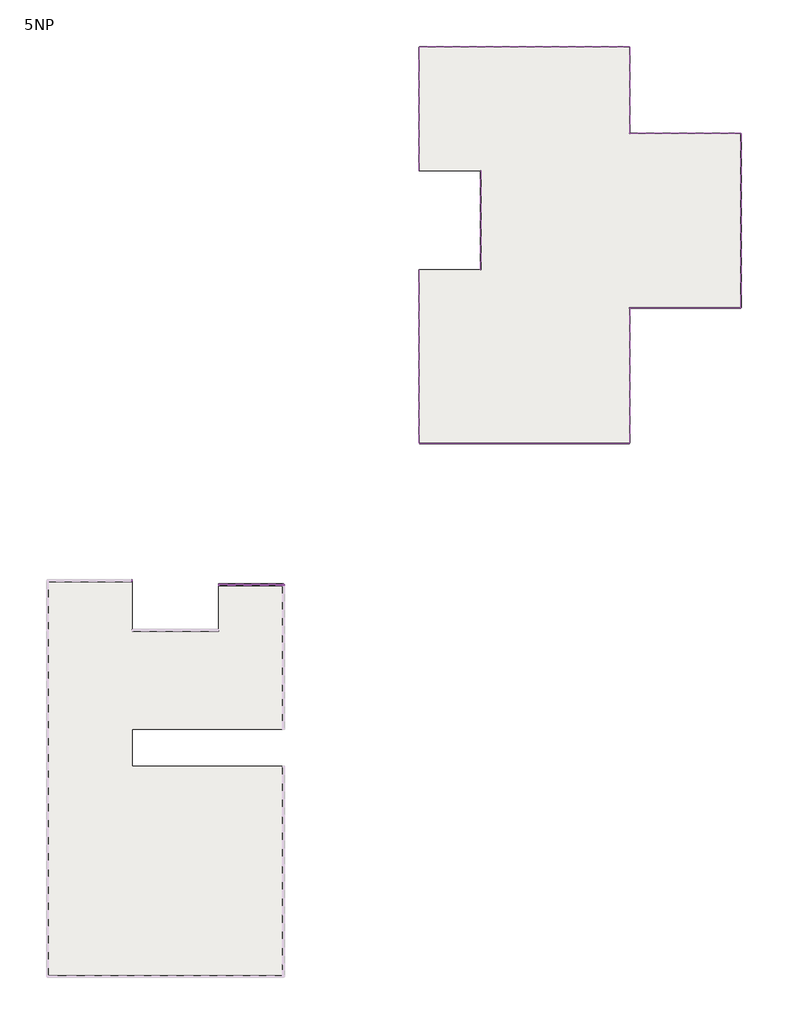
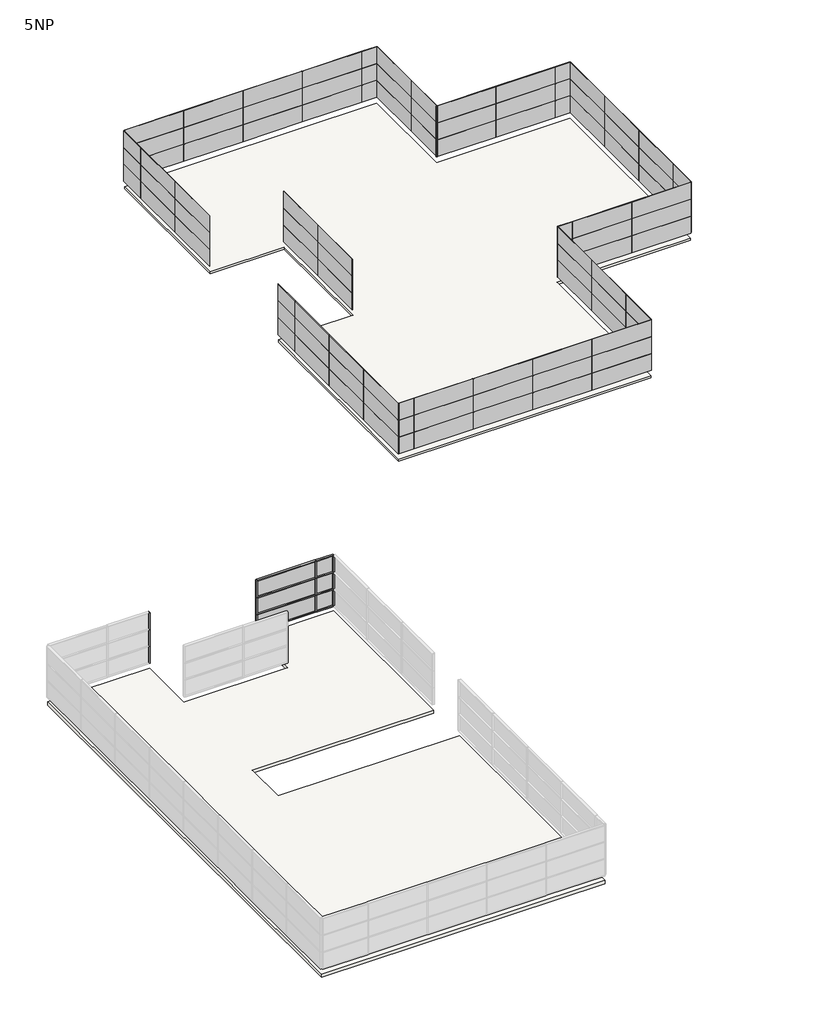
# One storey, part 3 of 3: 108 plates, 23 members, 2 slabs.
"""IFC4 building model written with IfcOpenShell, lengths in millimetres."""

from ifc_helpers import new_model, si_unit, frame, origin, place, context, project, spatial, polyline, outline, extrude, transform, mapped, element, save
from components import rectangular_mullion_50_x_150mm_d99dc9be, rectangular_mullion_50_x_150mm_6588f46c, rectangular_mullion_50_x_150mm_c2546fd4, rectangular_mullion_50_x_150mm_2fe63767, system_panel_glazed_8e9402eb, system_panel_glazed_39d17f19, system_panel_glazed_d6eabcf1, system_panel_glazed_926b6355, system_panel_glazed_d9fb9d0a, system_panel_glazed_4df6a082, system_panel_glazed_76089698, system_panel_glazed_7578c6fa

model = new_model("IFC4")

# Units and contexts
model_context = context("Model", 3, world=origin())
ifc_project = project(units=[si_unit("LENGTHUNIT", "METRE", prefix="MILLI")], contexts=[model_context])

# Site, building, storey
site = spatial("IfcSite", under=ifc_project)
building = spatial("IfcBuilding", under=site)
storey = spatial("IfcBuildingStorey", under=building, Name="5NP", Elevation=20000.0)

# Members
placement = place(None, origin())
rectangular_mullion_50_x_150mm_shape = rectangular_mullion_50_x_150mm_d99dc9be(model_context)
element("IfcMember", 1, ObjectType="Rectangular Mullion : 50 x 150mm", at=placement, inside=storey, context=model_context, shape_type="MappedRepresentation", body=[
    mapped(rectangular_mullion_50_x_150mm_shape, transform((12278.419219, 8039.3555415, 21600.0), x_axis=(1.0, 0.0, 0.0), y_axis=(0.0, 1.0, 0.0), z_axis=(0.0, 0.0, 1.0))),
])
element("IfcMember", 2, ObjectType="Rectangular Mullion : 50 x 150mm", at=placement, inside=storey, context=model_context, shape_type="MappedRepresentation", body=[
    mapped(rectangular_mullion_50_x_150mm_shape, transform((12278.419219, 8039.3555415, 22800.0), x_axis=(1.0, 0.0, 0.0), y_axis=(0.0, 1.0, 0.0), z_axis=(0.0, 0.0, 1.0))),
])
element("IfcMember", 3, ObjectType="Rectangular Mullion : 50 x 150mm", at=placement, inside=storey, context=model_context, shape_type="MappedRepresentation", body=[
    mapped(rectangular_mullion_50_x_150mm_shape, transform((12278.419219, 8039.3555415, 24000.0), x_axis=(1.0, 0.0, 0.0), y_axis=(0.0, 1.0, 0.0), z_axis=(0.0, 0.0, 1.0))),
])
rectangular_mullion_50_x_150mm_2_shape = rectangular_mullion_50_x_150mm_6588f46c(model_context)
element("IfcMember", 4, ObjectType="Rectangular Mullion : 50 x 150mm", at=placement, inside=storey, context=model_context, shape_type="MappedRepresentation", body=[
    mapped(rectangular_mullion_50_x_150mm_2_shape, transform((1278.419219, 8375.9839566, 21600.0), x_axis=(1.0, 0.0, 0.0), y_axis=(0.0, 1.0, 0.0), z_axis=(0.0, 0.0, 1.0))),
])
element("IfcMember", 5, ObjectType="Rectangular Mullion : 50 x 150mm", at=placement, inside=storey, context=model_context, shape_type="MappedRepresentation", body=[
    mapped(rectangular_mullion_50_x_150mm_2_shape, transform((1278.419219, 8375.9839566, 22800.0), x_axis=(1.0, 0.0, 0.0), y_axis=(0.0, 1.0, 0.0), z_axis=(0.0, 0.0, 1.0))),
])
element("IfcMember", 6, ObjectType="Rectangular Mullion : 50 x 150mm", at=placement, inside=storey, context=model_context, shape_type="MappedRepresentation", body=[
    mapped(rectangular_mullion_50_x_150mm_2_shape, transform((1278.419219, 8375.9839566, 24000.0), x_axis=(1.0, 0.0, 0.0), y_axis=(0.0, 1.0, 0.0), z_axis=(0.0, 0.0, 1.0))),
])
element("IfcMember", 7, ObjectType="Rectangular Mullion : 50 x 150mm", at=placement, inside=storey, context=model_context, shape_type="MappedRepresentation", body=[
    mapped(rectangular_mullion_50_x_150mm_2_shape, transform((13503.2660975, 8039.3555415, 21600.0), x_axis=(1.0, 0.0, 0.0), y_axis=(0.0, 1.0, 0.0), z_axis=(0.0, 0.0, 1.0))),
])
element("IfcMember", 8, ObjectType="Rectangular Mullion : 50 x 150mm", at=placement, inside=storey, context=model_context, shape_type="MappedRepresentation", body=[
    mapped(rectangular_mullion_50_x_150mm_2_shape, transform((13503.2660975, 8039.3555415, 22800.0), x_axis=(1.0, 0.0, 0.0), y_axis=(0.0, 1.0, 0.0), z_axis=(0.0, 0.0, 1.0))),
])
element("IfcMember", 9, ObjectType="Rectangular Mullion : 50 x 150mm", at=placement, inside=storey, context=model_context, shape_type="MappedRepresentation", body=[
    mapped(rectangular_mullion_50_x_150mm_2_shape, transform((13503.2660975, 8039.3555415, 24000.0), x_axis=(1.0, 0.0, 0.0), y_axis=(0.0, 1.0, 0.0), z_axis=(0.0, 0.0, 1.0))),
])
rectangular_mullion_50_x_150mm_3_shape = rectangular_mullion_50_x_150mm_c2546fd4(model_context)
element("IfcMember", 10, ObjectType="Rectangular Mullion : 50 x 150mm", at=placement, inside=storey, context=model_context, shape_type="MappedRepresentation", body=[
    mapped(rectangular_mullion_50_x_150mm_3_shape, transform((8328.419219, 8039.3555415, 24000.0), x_axis=(0.0, 0.0, 1.0), y_axis=(0.0, 1.0, 0.0), z_axis=(-1.0, 0.0, 0.0))),
])
element("IfcMember", 11, ObjectType="Rectangular Mullion : 50 x 150mm", at=placement, inside=storey, context=model_context, shape_type="MappedRepresentation", body=[
    mapped(rectangular_mullion_50_x_150mm_3_shape, transform((8328.419219, 8039.3555415, 20400.0), x_axis=(0.0, 0.0, 1.0), y_axis=(0.0, 1.0, 0.0), z_axis=(-1.0, 0.0, 0.0))),
])
element("IfcMember", 12, ObjectType="Rectangular Mullion : 50 x 150mm", at=placement, inside=storey, context=model_context, shape_type="MappedRepresentation", body=[
    mapped(rectangular_mullion_50_x_150mm_3_shape, transform((8328.419219, 8039.3555415, 21600.0), x_axis=(0.0, 0.0, 1.0), y_axis=(0.0, 1.0, 0.0), z_axis=(-1.0, 0.0, 0.0))),
])
element("IfcMember", 13, ObjectType="Rectangular Mullion : 50 x 150mm", at=placement, inside=storey, context=model_context, shape_type="MappedRepresentation", body=[
    mapped(rectangular_mullion_50_x_150mm_3_shape, transform((8328.419219, 8039.3555415, 22800.0), x_axis=(0.0, 0.0, 1.0), y_axis=(0.0, 1.0, 0.0), z_axis=(-1.0, 0.0, 0.0))),
])
element("IfcMember", 14, ObjectType="Rectangular Mullion : 50 x 150mm", at=placement, inside=storey, context=model_context, shape_type="MappedRepresentation", body=[
    mapped(rectangular_mullion_50_x_150mm_2_shape, transform((13503.2660975, 8039.3555415, 22800.0), x_axis=(0.0, 1.0, 0.0), y_axis=(1.0, 0.0, 0.0), z_axis=(0.0, 0.0, -1.0))),
])
element("IfcMember", 15, ObjectType="Rectangular Mullion : 50 x 150mm", at=placement, inside=storey, context=model_context, shape_type="MappedRepresentation", body=[
    mapped(rectangular_mullion_50_x_150mm_2_shape, transform((13503.2660975, 8039.3555415, 21600.0), x_axis=(0.0, 1.0, 0.0), y_axis=(1.0, 0.0, 0.0), z_axis=(0.0, 0.0, -1.0))),
])
element("IfcMember", 16, ObjectType="Rectangular Mullion : 50 x 150mm", at=placement, inside=storey, context=model_context, shape_type="MappedRepresentation", body=[
    mapped(rectangular_mullion_50_x_150mm_2_shape, transform((13503.2660975, 8039.3555415, 20400.0), x_axis=(0.0, 1.0, 0.0), y_axis=(1.0, 0.0, 0.0), z_axis=(0.0, 0.0, -1.0))),
])
element("IfcMember", 17, ObjectType="Rectangular Mullion : 50 x 150mm", at=placement, inside=storey, context=model_context, shape_type="MappedRepresentation", body=[
    mapped(rectangular_mullion_50_x_150mm_2_shape, transform((8278.419219, 8039.3555415, 20400.0), x_axis=(-1.0, 0.0, 0.0), y_axis=(0.0, 1.0, 0.0), z_axis=(0.0, 0.0, -1.0))),
])
element("IfcMember", 18, ObjectType="Rectangular Mullion : 50 x 150mm", at=placement, inside=storey, context=model_context, shape_type="MappedRepresentation", body=[
    mapped(rectangular_mullion_50_x_150mm_2_shape, transform((8278.419219, 8039.3555415, 21600.0), x_axis=(-1.0, 0.0, 0.0), y_axis=(0.0, 1.0, 0.0), z_axis=(0.0, 0.0, -1.0))),
])
element("IfcMember", 19, ObjectType="Rectangular Mullion : 50 x 150mm", at=placement, inside=storey, context=model_context, shape_type="MappedRepresentation", body=[
    mapped(rectangular_mullion_50_x_150mm_2_shape, transform((8278.419219, 8039.3555415, 22800.0), x_axis=(-1.0, 0.0, 0.0), y_axis=(0.0, 1.0, 0.0), z_axis=(0.0, 0.0, -1.0))),
])
rectangular_mullion_50_x_150mm_4_shape = rectangular_mullion_50_x_150mm_2fe63767(model_context)
element("IfcMember", 20, ObjectType="Rectangular Mullion : 50 x 150mm", at=placement, inside=storey, context=model_context, shape_type="MappedRepresentation", body=[
    mapped(rectangular_mullion_50_x_150mm_4_shape, transform((12303.419219, 8039.3555415, 22800.0), x_axis=(0.0, 0.0, 1.0), y_axis=(0.0, 1.0, 0.0), z_axis=(-1.0, 0.0, 0.0))),
])
element("IfcMember", 21, ObjectType="Rectangular Mullion : 50 x 150mm", at=placement, inside=storey, context=model_context, shape_type="MappedRepresentation", body=[
    mapped(rectangular_mullion_50_x_150mm_4_shape, transform((12303.419219, 8039.3555415, 24000.0), x_axis=(0.0, 0.0, 1.0), y_axis=(0.0, 1.0, 0.0), z_axis=(-1.0, 0.0, 0.0))),
])
element("IfcMember", 22, ObjectType="Rectangular Mullion : 50 x 150mm", at=placement, inside=storey, context=model_context, shape_type="MappedRepresentation", body=[
    mapped(rectangular_mullion_50_x_150mm_4_shape, transform((12303.419219, 8039.3555415, 20400.0), x_axis=(0.0, 0.0, 1.0), y_axis=(0.0, 1.0, 0.0), z_axis=(-1.0, 0.0, 0.0))),
])
element("IfcMember", 23, ObjectType="Rectangular Mullion : 50 x 150mm", at=placement, inside=storey, context=model_context, shape_type="MappedRepresentation", body=[
    mapped(rectangular_mullion_50_x_150mm_4_shape, transform((12303.419219, 8039.3555415, 21600.0), x_axis=(0.0, 0.0, 1.0), y_axis=(0.0, 1.0, 0.0), z_axis=(-1.0, 0.0, 0.0))),
])

# Plates
system_panel_glazed_shape = system_panel_glazed_8e9402eb(model_context)
element("IfcPlate", 24, ObjectType="System Panel : Glazed", at=placement, inside=storey, context=model_context, shape_type="MappedRepresentation", body=[
    mapped(system_panel_glazed_shape, transform((10290.919219, 8039.3555415, 20425.0), x_axis=(1.0, 0.0, 0.0), y_axis=(0.0, 1.0, 0.0), z_axis=(0.0, 0.0, 1.0))),
])
element("IfcPlate", 25, ObjectType="System Panel : Glazed", at=placement, inside=storey, context=model_context, shape_type="MappedRepresentation", body=[
    mapped(system_panel_glazed_shape, transform((10290.919219, 8039.3555415, 21625.0), x_axis=(1.0, 0.0, 0.0), y_axis=(0.0, 1.0, 0.0), z_axis=(0.0, 0.0, 1.0))),
])
element("IfcPlate", 26, ObjectType="System Panel : Glazed", at=placement, inside=storey, context=model_context, shape_type="MappedRepresentation", body=[
    mapped(system_panel_glazed_shape, transform((10290.919219, 8039.3555415, 22825.0), x_axis=(1.0, 0.0, 0.0), y_axis=(0.0, 1.0, 0.0), z_axis=(0.0, 0.0, 1.0))),
])
system_panel_glazed_2_shape = system_panel_glazed_39d17f19(model_context)
element("IfcPlate", 27, ObjectType="System Panel : Glazed", at=placement, inside=storey, context=model_context, shape_type="MappedRepresentation", body=[
    mapped(system_panel_glazed_2_shape, transform((12878.3426582, 8039.3555415, 20425.0), x_axis=(1.0, 0.0, 0.0), y_axis=(0.0, 1.0, 0.0), z_axis=(0.0, 0.0, 1.0))),
])
element("IfcPlate", 28, ObjectType="System Panel : Glazed", at=placement, inside=storey, context=model_context, shape_type="MappedRepresentation", body=[
    mapped(system_panel_glazed_2_shape, transform((12878.3426582, 8039.3555415, 21625.0), x_axis=(1.0, 0.0, 0.0), y_axis=(0.0, 1.0, 0.0), z_axis=(0.0, 0.0, 1.0))),
])
element("IfcPlate", 29, ObjectType="System Panel : Glazed", at=placement, inside=storey, context=model_context, shape_type="MappedRepresentation", body=[
    mapped(system_panel_glazed_2_shape, transform((12878.3426582, 8039.3555415, 22825.0), x_axis=(1.0, 0.0, 0.0), y_axis=(0.0, 1.0, 0.0), z_axis=(0.0, 0.0, 1.0))),
])
system_panel_glazed_3_shape = system_panel_glazed_d6eabcf1(model_context)
element("IfcPlate", 30, ObjectType="System Panel : Glazed", at=placement, inside=storey, context=model_context, shape_type="MappedRepresentation", body=[
    mapped(system_panel_glazed_3_shape, transform((39503.2660975, 19519.7749227, 20400.0), x_axis=(-1.0, 0.0, 0.0), y_axis=(0.0, -1.0, 0.0), z_axis=(0.0, 0.0, 1.0))),
])
element("IfcPlate", 31, ObjectType="System Panel : Glazed", at=placement, inside=storey, context=model_context, shape_type="MappedRepresentation", body=[
    mapped(system_panel_glazed_3_shape, transform((35503.2660975, 19519.7749227, 20400.0), x_axis=(-1.0, 0.0, 0.0), y_axis=(0.0, -1.0, 0.0), z_axis=(0.0, 0.0, 1.0))),
])
element("IfcPlate", 32, ObjectType="System Panel : Glazed", at=placement, inside=storey, context=model_context, shape_type="MappedRepresentation", body=[
    mapped(system_panel_glazed_3_shape, transform((31503.2660975, 19519.7749227, 20400.0), x_axis=(-1.0, 0.0, 0.0), y_axis=(0.0, -1.0, 0.0), z_axis=(0.0, 0.0, 1.0))),
])
element("IfcPlate", 33, ObjectType="System Panel : Glazed", at=placement, inside=storey, context=model_context, shape_type="MappedRepresentation", body=[
    mapped(system_panel_glazed_3_shape, transform((27503.2660975, 19519.7749227, 20400.0), x_axis=(-1.0, 0.0, 0.0), y_axis=(0.0, -1.0, 0.0), z_axis=(0.0, 0.0, 1.0))),
])
element("IfcPlate", 34, ObjectType="System Panel : Glazed", at=placement, inside=storey, context=model_context, shape_type="MappedRepresentation", body=[
    mapped(system_panel_glazed_3_shape, transform((39503.2660975, 19519.7749227, 21600.0), x_axis=(-1.0, 0.0, 0.0), y_axis=(0.0, -1.0, 0.0), z_axis=(0.0, 0.0, 1.0))),
])
element("IfcPlate", 35, ObjectType="System Panel : Glazed", at=placement, inside=storey, context=model_context, shape_type="MappedRepresentation", body=[
    mapped(system_panel_glazed_3_shape, transform((35503.2660975, 19519.7749227, 21600.0), x_axis=(-1.0, 0.0, 0.0), y_axis=(0.0, -1.0, 0.0), z_axis=(0.0, 0.0, 1.0))),
])
element("IfcPlate", 36, ObjectType="System Panel : Glazed", at=placement, inside=storey, context=model_context, shape_type="MappedRepresentation", body=[
    mapped(system_panel_glazed_3_shape, transform((31503.2660975, 19519.7749227, 21600.0), x_axis=(-1.0, 0.0, 0.0), y_axis=(0.0, -1.0, 0.0), z_axis=(0.0, 0.0, 1.0))),
])
element("IfcPlate", 37, ObjectType="System Panel : Glazed", at=placement, inside=storey, context=model_context, shape_type="MappedRepresentation", body=[
    mapped(system_panel_glazed_3_shape, transform((27503.2660975, 19519.7749227, 21600.0), x_axis=(-1.0, 0.0, 0.0), y_axis=(0.0, -1.0, 0.0), z_axis=(0.0, 0.0, 1.0))),
])
element("IfcPlate", 38, ObjectType="System Panel : Glazed", at=placement, inside=storey, context=model_context, shape_type="MappedRepresentation", body=[
    mapped(system_panel_glazed_3_shape, transform((39503.2660975, 19519.7749227, 22800.0), x_axis=(-1.0, 0.0, 0.0), y_axis=(0.0, -1.0, 0.0), z_axis=(0.0, 0.0, 1.0))),
])
element("IfcPlate", 39, ObjectType="System Panel : Glazed", at=placement, inside=storey, context=model_context, shape_type="MappedRepresentation", body=[
    mapped(system_panel_glazed_3_shape, transform((35503.2660975, 19519.7749227, 22800.0), x_axis=(-1.0, 0.0, 0.0), y_axis=(0.0, -1.0, 0.0), z_axis=(0.0, 0.0, 1.0))),
])
element("IfcPlate", 40, ObjectType="System Panel : Glazed", at=placement, inside=storey, context=model_context, shape_type="MappedRepresentation", body=[
    mapped(system_panel_glazed_3_shape, transform((31503.2660975, 19519.7749227, 22800.0), x_axis=(-1.0, 0.0, 0.0), y_axis=(0.0, -1.0, 0.0), z_axis=(0.0, 0.0, 1.0))),
])
element("IfcPlate", 41, ObjectType="System Panel : Glazed", at=placement, inside=storey, context=model_context, shape_type="MappedRepresentation", body=[
    mapped(system_panel_glazed_3_shape, transform((27503.2660975, 19519.7749227, 22800.0), x_axis=(-1.0, 0.0, 0.0), y_axis=(0.0, -1.0, 0.0), z_axis=(0.0, 0.0, 1.0))),
])
element("IfcPlate", 42, ObjectType="System Panel : Glazed", at=placement, inside=storey, context=model_context, shape_type="MappedRepresentation", body=[
    mapped(system_panel_glazed_3_shape, transform((24503.2660975, 21519.7749227, 20400.0), x_axis=(0.0, 1.0, 0.0), y_axis=(-1.0, 0.0, 0.0), z_axis=(0.0, 0.0, 1.0))),
])
element("IfcPlate", 43, ObjectType="System Panel : Glazed", at=placement, inside=storey, context=model_context, shape_type="MappedRepresentation", body=[
    mapped(system_panel_glazed_3_shape, transform((24503.2660975, 25519.7749227, 20400.0), x_axis=(0.0, 1.0, 0.0), y_axis=(-1.0, 0.0, 0.0), z_axis=(0.0, 0.0, 1.0))),
])
element("IfcPlate", 44, ObjectType="System Panel : Glazed", at=placement, inside=storey, context=model_context, shape_type="MappedRepresentation", body=[
    mapped(system_panel_glazed_3_shape, transform((24503.2660975, 29519.7749227, 20400.0), x_axis=(0.0, 1.0, 0.0), y_axis=(-1.0, 0.0, 0.0), z_axis=(0.0, 0.0, 1.0))),
])
element("IfcPlate", 45, ObjectType="System Panel : Glazed", at=placement, inside=storey, context=model_context, shape_type="MappedRepresentation", body=[
    mapped(system_panel_glazed_3_shape, transform((24503.2660975, 21519.7749227, 21600.0), x_axis=(0.0, 1.0, 0.0), y_axis=(-1.0, 0.0, 0.0), z_axis=(0.0, 0.0, 1.0))),
])
element("IfcPlate", 46, ObjectType="System Panel : Glazed", at=placement, inside=storey, context=model_context, shape_type="MappedRepresentation", body=[
    mapped(system_panel_glazed_3_shape, transform((24503.2660975, 25519.7749227, 21600.0), x_axis=(0.0, 1.0, 0.0), y_axis=(-1.0, 0.0, 0.0), z_axis=(0.0, 0.0, 1.0))),
])
element("IfcPlate", 47, ObjectType="System Panel : Glazed", at=placement, inside=storey, context=model_context, shape_type="MappedRepresentation", body=[
    mapped(system_panel_glazed_3_shape, transform((24503.2660975, 29519.7749227, 21600.0), x_axis=(0.0, 1.0, 0.0), y_axis=(-1.0, 0.0, 0.0), z_axis=(0.0, 0.0, 1.0))),
])
element("IfcPlate", 48, ObjectType="System Panel : Glazed", at=placement, inside=storey, context=model_context, shape_type="MappedRepresentation", body=[
    mapped(system_panel_glazed_3_shape, transform((24503.2660975, 21519.7749227, 22800.0), x_axis=(0.0, 1.0, 0.0), y_axis=(-1.0, 0.0, 0.0), z_axis=(0.0, 0.0, 1.0))),
])
element("IfcPlate", 49, ObjectType="System Panel : Glazed", at=placement, inside=storey, context=model_context, shape_type="MappedRepresentation", body=[
    mapped(system_panel_glazed_3_shape, transform((24503.2660975, 25519.7749227, 22800.0), x_axis=(0.0, 1.0, 0.0), y_axis=(-1.0, 0.0, 0.0), z_axis=(0.0, 0.0, 1.0))),
])
element("IfcPlate", 50, ObjectType="System Panel : Glazed", at=placement, inside=storey, context=model_context, shape_type="MappedRepresentation", body=[
    mapped(system_panel_glazed_3_shape, transform((24503.2660975, 29519.7749227, 22800.0), x_axis=(0.0, 1.0, 0.0), y_axis=(-1.0, 0.0, 0.0), z_axis=(0.0, 0.0, 1.0))),
])
element("IfcPlate", 51, ObjectType="System Panel : Glazed", at=placement, inside=storey, context=model_context, shape_type="MappedRepresentation", body=[
    mapped(system_panel_glazed_3_shape, transform((29503.2660975, 35519.7749227, 20400.0), x_axis=(0.0, 1.0, 0.0), y_axis=(-1.0, 0.0, 0.0), z_axis=(0.0, 0.0, 1.0))),
])
element("IfcPlate", 52, ObjectType="System Panel : Glazed", at=placement, inside=storey, context=model_context, shape_type="MappedRepresentation", body=[
    mapped(system_panel_glazed_3_shape, transform((29503.2660975, 39519.7749227, 20400.0), x_axis=(0.0, 1.0, 0.0), y_axis=(-1.0, 0.0, 0.0), z_axis=(0.0, 0.0, 1.0))),
])
element("IfcPlate", 53, ObjectType="System Panel : Glazed", at=placement, inside=storey, context=model_context, shape_type="MappedRepresentation", body=[
    mapped(system_panel_glazed_3_shape, transform((29503.2660975, 35519.7749227, 21600.0), x_axis=(0.0, 1.0, 0.0), y_axis=(-1.0, 0.0, 0.0), z_axis=(0.0, 0.0, 1.0))),
])
element("IfcPlate", 54, ObjectType="System Panel : Glazed", at=placement, inside=storey, context=model_context, shape_type="MappedRepresentation", body=[
    mapped(system_panel_glazed_3_shape, transform((29503.2660975, 39519.7749227, 21600.0), x_axis=(0.0, 1.0, 0.0), y_axis=(-1.0, 0.0, 0.0), z_axis=(0.0, 0.0, 1.0))),
])
element("IfcPlate", 55, ObjectType="System Panel : Glazed", at=placement, inside=storey, context=model_context, shape_type="MappedRepresentation", body=[
    mapped(system_panel_glazed_3_shape, transform((29503.2660975, 35519.7749227, 22800.0), x_axis=(0.0, 1.0, 0.0), y_axis=(-1.0, 0.0, 0.0), z_axis=(0.0, 0.0, 1.0))),
])
element("IfcPlate", 56, ObjectType="System Panel : Glazed", at=placement, inside=storey, context=model_context, shape_type="MappedRepresentation", body=[
    mapped(system_panel_glazed_3_shape, transform((29503.2660975, 39519.7749227, 22800.0), x_axis=(0.0, 1.0, 0.0), y_axis=(-1.0, 0.0, 0.0), z_axis=(0.0, 0.0, 1.0))),
])
element("IfcPlate", 57, ObjectType="System Panel : Glazed", at=placement, inside=storey, context=model_context, shape_type="MappedRepresentation", body=[
    mapped(system_panel_glazed_3_shape, transform((24503.2660975, 43519.7749227, 20400.0), x_axis=(0.0, 1.0, 0.0), y_axis=(-1.0, 0.0, 0.0), z_axis=(0.0, 0.0, 1.0))),
])
element("IfcPlate", 58, ObjectType="System Panel : Glazed", at=placement, inside=storey, context=model_context, shape_type="MappedRepresentation", body=[
    mapped(system_panel_glazed_3_shape, transform((24503.2660975, 47519.7749227, 20400.0), x_axis=(0.0, 1.0, 0.0), y_axis=(-1.0, 0.0, 0.0), z_axis=(0.0, 0.0, 1.0))),
])
element("IfcPlate", 59, ObjectType="System Panel : Glazed", at=placement, inside=storey, context=model_context, shape_type="MappedRepresentation", body=[
    mapped(system_panel_glazed_3_shape, transform((24503.2660975, 43519.7749227, 21600.0), x_axis=(0.0, 1.0, 0.0), y_axis=(-1.0, 0.0, 0.0), z_axis=(0.0, 0.0, 1.0))),
])
element("IfcPlate", 60, ObjectType="System Panel : Glazed", at=placement, inside=storey, context=model_context, shape_type="MappedRepresentation", body=[
    mapped(system_panel_glazed_3_shape, transform((24503.2660975, 47519.7749227, 21600.0), x_axis=(0.0, 1.0, 0.0), y_axis=(-1.0, 0.0, 0.0), z_axis=(0.0, 0.0, 1.0))),
])
element("IfcPlate", 61, ObjectType="System Panel : Glazed", at=placement, inside=storey, context=model_context, shape_type="MappedRepresentation", body=[
    mapped(system_panel_glazed_3_shape, transform((24503.2660975, 43519.7749227, 22800.0), x_axis=(0.0, 1.0, 0.0), y_axis=(-1.0, 0.0, 0.0), z_axis=(0.0, 0.0, 1.0))),
])
element("IfcPlate", 62, ObjectType="System Panel : Glazed", at=placement, inside=storey, context=model_context, shape_type="MappedRepresentation", body=[
    mapped(system_panel_glazed_3_shape, transform((24503.2660975, 47519.7749227, 22800.0), x_axis=(0.0, 1.0, 0.0), y_axis=(-1.0, 0.0, 0.0), z_axis=(0.0, 0.0, 1.0))),
])
element("IfcPlate", 63, ObjectType="System Panel : Glazed", at=placement, inside=storey, context=model_context, shape_type="MappedRepresentation", body=[
    mapped(system_panel_glazed_3_shape, transform((48503.2660975, 30457.4517739, 20400.0), x_axis=(-1.0, 0.0, 0.0), y_axis=(0.0, -1.0, 0.0), z_axis=(0.0, 0.0, 1.0))),
])
element("IfcPlate", 64, ObjectType="System Panel : Glazed", at=placement, inside=storey, context=model_context, shape_type="MappedRepresentation", body=[
    mapped(system_panel_glazed_3_shape, transform((44503.2660975, 30457.4517739, 20400.0), x_axis=(-1.0, 0.0, 0.0), y_axis=(0.0, -1.0, 0.0), z_axis=(0.0, 0.0, 1.0))),
])
element("IfcPlate", 65, ObjectType="System Panel : Glazed", at=placement, inside=storey, context=model_context, shape_type="MappedRepresentation", body=[
    mapped(system_panel_glazed_3_shape, transform((48503.2660975, 30457.4517739, 21600.0), x_axis=(-1.0, 0.0, 0.0), y_axis=(0.0, -1.0, 0.0), z_axis=(0.0, 0.0, 1.0))),
])
element("IfcPlate", 66, ObjectType="System Panel : Glazed", at=placement, inside=storey, context=model_context, shape_type="MappedRepresentation", body=[
    mapped(system_panel_glazed_3_shape, transform((44503.2660975, 30457.4517739, 21600.0), x_axis=(-1.0, 0.0, 0.0), y_axis=(0.0, -1.0, 0.0), z_axis=(0.0, 0.0, 1.0))),
])
element("IfcPlate", 67, ObjectType="System Panel : Glazed", at=placement, inside=storey, context=model_context, shape_type="MappedRepresentation", body=[
    mapped(system_panel_glazed_3_shape, transform((48503.2660975, 30457.4517739, 22800.0), x_axis=(-1.0, 0.0, 0.0), y_axis=(0.0, -1.0, 0.0), z_axis=(0.0, 0.0, 1.0))),
])
element("IfcPlate", 68, ObjectType="System Panel : Glazed", at=placement, inside=storey, context=model_context, shape_type="MappedRepresentation", body=[
    mapped(system_panel_glazed_3_shape, transform((44503.2660975, 30457.4517739, 22800.0), x_axis=(-1.0, 0.0, 0.0), y_axis=(0.0, -1.0, 0.0), z_axis=(0.0, 0.0, 1.0))),
])
element("IfcPlate", 69, ObjectType="System Panel : Glazed", at=placement, inside=storey, context=model_context, shape_type="MappedRepresentation", body=[
    mapped(system_panel_glazed_3_shape, transform((26503.2660975, 51519.7749227, 20400.0), x_axis=(1.0, 0.0, 0.0), y_axis=(0.0, 1.0, 0.0), z_axis=(0.0, 0.0, 1.0))),
])
element("IfcPlate", 70, ObjectType="System Panel : Glazed", at=placement, inside=storey, context=model_context, shape_type="MappedRepresentation", body=[
    mapped(system_panel_glazed_3_shape, transform((30503.2660975, 51519.7749227, 20400.0), x_axis=(1.0, 0.0, 0.0), y_axis=(0.0, 1.0, 0.0), z_axis=(0.0, 0.0, 1.0))),
])
element("IfcPlate", 71, ObjectType="System Panel : Glazed", at=placement, inside=storey, context=model_context, shape_type="MappedRepresentation", body=[
    mapped(system_panel_glazed_3_shape, transform((34503.2660975, 51519.7749227, 20400.0), x_axis=(1.0, 0.0, 0.0), y_axis=(0.0, 1.0, 0.0), z_axis=(0.0, 0.0, 1.0))),
])
element("IfcPlate", 72, ObjectType="System Panel : Glazed", at=placement, inside=storey, context=model_context, shape_type="MappedRepresentation", body=[
    mapped(system_panel_glazed_3_shape, transform((38503.2660975, 51519.7749227, 20400.0), x_axis=(1.0, 0.0, 0.0), y_axis=(0.0, 1.0, 0.0), z_axis=(0.0, 0.0, 1.0))),
])
element("IfcPlate", 73, ObjectType="System Panel : Glazed", at=placement, inside=storey, context=model_context, shape_type="MappedRepresentation", body=[
    mapped(system_panel_glazed_3_shape, transform((26503.2660975, 51519.7749227, 21600.0), x_axis=(1.0, 0.0, 0.0), y_axis=(0.0, 1.0, 0.0), z_axis=(0.0, 0.0, 1.0))),
])
element("IfcPlate", 74, ObjectType="System Panel : Glazed", at=placement, inside=storey, context=model_context, shape_type="MappedRepresentation", body=[
    mapped(system_panel_glazed_3_shape, transform((30503.2660975, 51519.7749227, 21600.0), x_axis=(1.0, 0.0, 0.0), y_axis=(0.0, 1.0, 0.0), z_axis=(0.0, 0.0, 1.0))),
])
element("IfcPlate", 75, ObjectType="System Panel : Glazed", at=placement, inside=storey, context=model_context, shape_type="MappedRepresentation", body=[
    mapped(system_panel_glazed_3_shape, transform((34503.2660975, 51519.7749227, 21600.0), x_axis=(1.0, 0.0, 0.0), y_axis=(0.0, 1.0, 0.0), z_axis=(0.0, 0.0, 1.0))),
])
element("IfcPlate", 76, ObjectType="System Panel : Glazed", at=placement, inside=storey, context=model_context, shape_type="MappedRepresentation", body=[
    mapped(system_panel_glazed_3_shape, transform((38503.2660975, 51519.7749227, 21600.0), x_axis=(1.0, 0.0, 0.0), y_axis=(0.0, 1.0, 0.0), z_axis=(0.0, 0.0, 1.0))),
])
element("IfcPlate", 77, ObjectType="System Panel : Glazed", at=placement, inside=storey, context=model_context, shape_type="MappedRepresentation", body=[
    mapped(system_panel_glazed_3_shape, transform((26503.2660975, 51519.7749227, 22800.0), x_axis=(1.0, 0.0, 0.0), y_axis=(0.0, 1.0, 0.0), z_axis=(0.0, 0.0, 1.0))),
])
element("IfcPlate", 78, ObjectType="System Panel : Glazed", at=placement, inside=storey, context=model_context, shape_type="MappedRepresentation", body=[
    mapped(system_panel_glazed_3_shape, transform((30503.2660975, 51519.7749227, 22800.0), x_axis=(1.0, 0.0, 0.0), y_axis=(0.0, 1.0, 0.0), z_axis=(0.0, 0.0, 1.0))),
])
element("IfcPlate", 79, ObjectType="System Panel : Glazed", at=placement, inside=storey, context=model_context, shape_type="MappedRepresentation", body=[
    mapped(system_panel_glazed_3_shape, transform((34503.2660975, 51519.7749227, 22800.0), x_axis=(1.0, 0.0, 0.0), y_axis=(0.0, 1.0, 0.0), z_axis=(0.0, 0.0, 1.0))),
])
element("IfcPlate", 80, ObjectType="System Panel : Glazed", at=placement, inside=storey, context=model_context, shape_type="MappedRepresentation", body=[
    mapped(system_panel_glazed_3_shape, transform((38503.2660975, 51519.7749227, 22800.0), x_axis=(1.0, 0.0, 0.0), y_axis=(0.0, 1.0, 0.0), z_axis=(0.0, 0.0, 1.0))),
])
element("IfcPlate", 81, ObjectType="System Panel : Glazed", at=placement, inside=storey, context=model_context, shape_type="MappedRepresentation", body=[
    mapped(system_panel_glazed_3_shape, transform((41503.2660975, 49519.7749227, 20400.0), x_axis=(0.0, -1.0, 0.0), y_axis=(1.0, 0.0, 0.0), z_axis=(0.0, 0.0, 1.0))),
])
element("IfcPlate", 82, ObjectType="System Panel : Glazed", at=placement, inside=storey, context=model_context, shape_type="MappedRepresentation", body=[
    mapped(system_panel_glazed_3_shape, transform((41503.2660975, 49519.7749227, 21600.0), x_axis=(0.0, -1.0, 0.0), y_axis=(1.0, 0.0, 0.0), z_axis=(0.0, 0.0, 1.0))),
])
element("IfcPlate", 83, ObjectType="System Panel : Glazed", at=placement, inside=storey, context=model_context, shape_type="MappedRepresentation", body=[
    mapped(system_panel_glazed_3_shape, transform((41503.2660975, 49519.7749227, 22800.0), x_axis=(0.0, -1.0, 0.0), y_axis=(1.0, 0.0, 0.0), z_axis=(0.0, 0.0, 1.0))),
])
element("IfcPlate", 84, ObjectType="System Panel : Glazed", at=placement, inside=storey, context=model_context, shape_type="MappedRepresentation", body=[
    mapped(system_panel_glazed_3_shape, transform((43503.2660975, 44519.7749227, 20400.0), x_axis=(1.0, 0.0, 0.0), y_axis=(0.0, 1.0, 0.0), z_axis=(0.0, 0.0, 1.0))),
])
element("IfcPlate", 85, ObjectType="System Panel : Glazed", at=placement, inside=storey, context=model_context, shape_type="MappedRepresentation", body=[
    mapped(system_panel_glazed_3_shape, transform((47503.2660975, 44519.7749227, 20400.0), x_axis=(1.0, 0.0, 0.0), y_axis=(0.0, 1.0, 0.0), z_axis=(0.0, 0.0, 1.0))),
])
element("IfcPlate", 86, ObjectType="System Panel : Glazed", at=placement, inside=storey, context=model_context, shape_type="MappedRepresentation", body=[
    mapped(system_panel_glazed_3_shape, transform((43503.2660975, 44519.7749227, 21600.0), x_axis=(1.0, 0.0, 0.0), y_axis=(0.0, 1.0, 0.0), z_axis=(0.0, 0.0, 1.0))),
])
element("IfcPlate", 87, ObjectType="System Panel : Glazed", at=placement, inside=storey, context=model_context, shape_type="MappedRepresentation", body=[
    mapped(system_panel_glazed_3_shape, transform((47503.2660975, 44519.7749227, 21600.0), x_axis=(1.0, 0.0, 0.0), y_axis=(0.0, 1.0, 0.0), z_axis=(0.0, 0.0, 1.0))),
])
element("IfcPlate", 88, ObjectType="System Panel : Glazed", at=placement, inside=storey, context=model_context, shape_type="MappedRepresentation", body=[
    mapped(system_panel_glazed_3_shape, transform((43503.2660975, 44519.7749227, 22800.0), x_axis=(1.0, 0.0, 0.0), y_axis=(0.0, 1.0, 0.0), z_axis=(0.0, 0.0, 1.0))),
])
element("IfcPlate", 89, ObjectType="System Panel : Glazed", at=placement, inside=storey, context=model_context, shape_type="MappedRepresentation", body=[
    mapped(system_panel_glazed_3_shape, transform((47503.2660975, 44519.7749227, 22800.0), x_axis=(1.0, 0.0, 0.0), y_axis=(0.0, 1.0, 0.0), z_axis=(0.0, 0.0, 1.0))),
])
element("IfcPlate", 90, ObjectType="System Panel : Glazed", at=placement, inside=storey, context=model_context, shape_type="MappedRepresentation", body=[
    mapped(system_panel_glazed_3_shape, transform((50503.2660975, 42519.7749227, 20400.0), x_axis=(0.0, -1.0, 0.0), y_axis=(1.0, 0.0, 0.0), z_axis=(0.0, 0.0, 1.0))),
])
element("IfcPlate", 91, ObjectType="System Panel : Glazed", at=placement, inside=storey, context=model_context, shape_type="MappedRepresentation", body=[
    mapped(system_panel_glazed_3_shape, transform((50503.2660975, 38519.7749227, 20400.0), x_axis=(0.0, -1.0, 0.0), y_axis=(1.0, 0.0, 0.0), z_axis=(0.0, 0.0, 1.0))),
])
element("IfcPlate", 92, ObjectType="System Panel : Glazed", at=placement, inside=storey, context=model_context, shape_type="MappedRepresentation", body=[
    mapped(system_panel_glazed_3_shape, transform((50503.2660975, 34519.7749227, 20400.0), x_axis=(0.0, -1.0, 0.0), y_axis=(1.0, 0.0, 0.0), z_axis=(0.0, 0.0, 1.0))),
])
element("IfcPlate", 93, ObjectType="System Panel : Glazed", at=placement, inside=storey, context=model_context, shape_type="MappedRepresentation", body=[
    mapped(system_panel_glazed_3_shape, transform((50503.2660975, 42519.7749227, 21600.0), x_axis=(0.0, -1.0, 0.0), y_axis=(1.0, 0.0, 0.0), z_axis=(0.0, 0.0, 1.0))),
])
element("IfcPlate", 94, ObjectType="System Panel : Glazed", at=placement, inside=storey, context=model_context, shape_type="MappedRepresentation", body=[
    mapped(system_panel_glazed_3_shape, transform((50503.2660975, 38519.7749227, 21600.0), x_axis=(0.0, -1.0, 0.0), y_axis=(1.0, 0.0, 0.0), z_axis=(0.0, 0.0, 1.0))),
])
element("IfcPlate", 95, ObjectType="System Panel : Glazed", at=placement, inside=storey, context=model_context, shape_type="MappedRepresentation", body=[
    mapped(system_panel_glazed_3_shape, transform((50503.2660975, 34519.7749227, 21600.0), x_axis=(0.0, -1.0, 0.0), y_axis=(1.0, 0.0, 0.0), z_axis=(0.0, 0.0, 1.0))),
])
element("IfcPlate", 96, ObjectType="System Panel : Glazed", at=placement, inside=storey, context=model_context, shape_type="MappedRepresentation", body=[
    mapped(system_panel_glazed_3_shape, transform((50503.2660975, 42519.7749227, 22800.0), x_axis=(0.0, -1.0, 0.0), y_axis=(1.0, 0.0, 0.0), z_axis=(0.0, 0.0, 1.0))),
])
element("IfcPlate", 97, ObjectType="System Panel : Glazed", at=placement, inside=storey, context=model_context, shape_type="MappedRepresentation", body=[
    mapped(system_panel_glazed_3_shape, transform((50503.2660975, 38519.7749227, 22800.0), x_axis=(0.0, -1.0, 0.0), y_axis=(1.0, 0.0, 0.0), z_axis=(0.0, 0.0, 1.0))),
])
element("IfcPlate", 98, ObjectType="System Panel : Glazed", at=placement, inside=storey, context=model_context, shape_type="MappedRepresentation", body=[
    mapped(system_panel_glazed_3_shape, transform((50503.2660975, 34519.7749227, 22800.0), x_axis=(0.0, -1.0, 0.0), y_axis=(1.0, 0.0, 0.0), z_axis=(0.0, 0.0, 1.0))),
])
element("IfcPlate", 99, ObjectType="System Panel : Glazed", at=placement, inside=storey, context=model_context, shape_type="MappedRepresentation", body=[
    mapped(system_panel_glazed_3_shape, transform((41503.2660975, 28457.4517739, 20400.0), x_axis=(0.0, -1.0, 0.0), y_axis=(1.0, 0.0, 0.0), z_axis=(0.0, 0.0, 1.0))),
])
element("IfcPlate", 100, ObjectType="System Panel : Glazed", at=placement, inside=storey, context=model_context, shape_type="MappedRepresentation", body=[
    mapped(system_panel_glazed_3_shape, transform((41503.2660975, 24457.4517739, 20400.0), x_axis=(0.0, -1.0, 0.0), y_axis=(1.0, 0.0, 0.0), z_axis=(0.0, 0.0, 1.0))),
])
element("IfcPlate", 101, ObjectType="System Panel : Glazed", at=placement, inside=storey, context=model_context, shape_type="MappedRepresentation", body=[
    mapped(system_panel_glazed_3_shape, transform((41503.2660975, 28457.4517739, 21600.0), x_axis=(0.0, -1.0, 0.0), y_axis=(1.0, 0.0, 0.0), z_axis=(0.0, 0.0, 1.0))),
])
element("IfcPlate", 102, ObjectType="System Panel : Glazed", at=placement, inside=storey, context=model_context, shape_type="MappedRepresentation", body=[
    mapped(system_panel_glazed_3_shape, transform((41503.2660975, 24457.4517739, 21600.0), x_axis=(0.0, -1.0, 0.0), y_axis=(1.0, 0.0, 0.0), z_axis=(0.0, 0.0, 1.0))),
])
element("IfcPlate", 103, ObjectType="System Panel : Glazed", at=placement, inside=storey, context=model_context, shape_type="MappedRepresentation", body=[
    mapped(system_panel_glazed_3_shape, transform((41503.2660975, 28457.4517739, 22800.0), x_axis=(0.0, -1.0, 0.0), y_axis=(1.0, 0.0, 0.0), z_axis=(0.0, 0.0, 1.0))),
])
element("IfcPlate", 104, ObjectType="System Panel : Glazed", at=placement, inside=storey, context=model_context, shape_type="MappedRepresentation", body=[
    mapped(system_panel_glazed_3_shape, transform((41503.2660975, 24457.4517739, 22800.0), x_axis=(0.0, -1.0, 0.0), y_axis=(1.0, 0.0, 0.0), z_axis=(0.0, 0.0, 1.0))),
])
system_panel_glazed_4_shape = system_panel_glazed_926b6355(model_context)
element("IfcPlate", 105, ObjectType="System Panel : Glazed", at=placement, inside=storey, context=model_context, shape_type="MappedRepresentation", body=[
    mapped(system_panel_glazed_4_shape, transform((25003.2660975, 19519.7749227, 20400.0), x_axis=(-1.0, 0.0, 0.0), y_axis=(0.0, -1.0, 0.0), z_axis=(0.0, 0.0, 1.0))),
])
element("IfcPlate", 106, ObjectType="System Panel : Glazed", at=placement, inside=storey, context=model_context, shape_type="MappedRepresentation", body=[
    mapped(system_panel_glazed_4_shape, transform((25003.2660975, 19519.7749227, 21600.0), x_axis=(-1.0, 0.0, 0.0), y_axis=(0.0, -1.0, 0.0), z_axis=(0.0, 0.0, 1.0))),
])
element("IfcPlate", 107, ObjectType="System Panel : Glazed", at=placement, inside=storey, context=model_context, shape_type="MappedRepresentation", body=[
    mapped(system_panel_glazed_4_shape, transform((25003.2660975, 19519.7749227, 22800.0), x_axis=(-1.0, 0.0, 0.0), y_axis=(0.0, -1.0, 0.0), z_axis=(0.0, 0.0, 1.0))),
])
element("IfcPlate", 108, ObjectType="System Panel : Glazed", at=placement, inside=storey, context=model_context, shape_type="MappedRepresentation", body=[
    mapped(system_panel_glazed_4_shape, transform((42003.2660975, 30457.4517739, 20400.0), x_axis=(-1.0, 0.0, 0.0), y_axis=(0.0, -1.0, 0.0), z_axis=(0.0, 0.0, 1.0))),
])
element("IfcPlate", 109, ObjectType="System Panel : Glazed", at=placement, inside=storey, context=model_context, shape_type="MappedRepresentation", body=[
    mapped(system_panel_glazed_4_shape, transform((42003.2660975, 30457.4517739, 21600.0), x_axis=(-1.0, 0.0, 0.0), y_axis=(0.0, -1.0, 0.0), z_axis=(0.0, 0.0, 1.0))),
])
element("IfcPlate", 110, ObjectType="System Panel : Glazed", at=placement, inside=storey, context=model_context, shape_type="MappedRepresentation", body=[
    mapped(system_panel_glazed_4_shape, transform((42003.2660975, 30457.4517739, 22800.0), x_axis=(-1.0, 0.0, 0.0), y_axis=(0.0, -1.0, 0.0), z_axis=(0.0, 0.0, 1.0))),
])
element("IfcPlate", 111, ObjectType="System Panel : Glazed", at=placement, inside=storey, context=model_context, shape_type="MappedRepresentation", body=[
    mapped(system_panel_glazed_4_shape, transform((41003.2660975, 51519.7749227, 20400.0), x_axis=(1.0, 0.0, 0.0), y_axis=(0.0, 1.0, 0.0), z_axis=(0.0, 0.0, 1.0))),
])
element("IfcPlate", 112, ObjectType="System Panel : Glazed", at=placement, inside=storey, context=model_context, shape_type="MappedRepresentation", body=[
    mapped(system_panel_glazed_4_shape, transform((41003.2660975, 51519.7749227, 21600.0), x_axis=(1.0, 0.0, 0.0), y_axis=(0.0, 1.0, 0.0), z_axis=(0.0, 0.0, 1.0))),
])
element("IfcPlate", 113, ObjectType="System Panel : Glazed", at=placement, inside=storey, context=model_context, shape_type="MappedRepresentation", body=[
    mapped(system_panel_glazed_4_shape, transform((41003.2660975, 51519.7749227, 22800.0), x_axis=(1.0, 0.0, 0.0), y_axis=(0.0, 1.0, 0.0), z_axis=(0.0, 0.0, 1.0))),
])
element("IfcPlate", 114, ObjectType="System Panel : Glazed", at=placement, inside=storey, context=model_context, shape_type="MappedRepresentation", body=[
    mapped(system_panel_glazed_4_shape, transform((50003.2660975, 44519.7749227, 20400.0), x_axis=(1.0, 0.0, 0.0), y_axis=(0.0, 1.0, 0.0), z_axis=(0.0, 0.0, 1.0))),
])
element("IfcPlate", 115, ObjectType="System Panel : Glazed", at=placement, inside=storey, context=model_context, shape_type="MappedRepresentation", body=[
    mapped(system_panel_glazed_4_shape, transform((50003.2660975, 44519.7749227, 21600.0), x_axis=(1.0, 0.0, 0.0), y_axis=(0.0, 1.0, 0.0), z_axis=(0.0, 0.0, 1.0))),
])
element("IfcPlate", 116, ObjectType="System Panel : Glazed", at=placement, inside=storey, context=model_context, shape_type="MappedRepresentation", body=[
    mapped(system_panel_glazed_4_shape, transform((50003.2660975, 44519.7749227, 22800.0), x_axis=(1.0, 0.0, 0.0), y_axis=(0.0, 1.0, 0.0), z_axis=(0.0, 0.0, 1.0))),
])
system_panel_glazed_5_shape = system_panel_glazed_d9fb9d0a(model_context)
element("IfcPlate", 117, ObjectType="System Panel : Glazed", at=placement, inside=storey, context=model_context, shape_type="MappedRepresentation", body=[
    mapped(system_panel_glazed_5_shape, transform((24503.2660975, 32519.7749227, 20400.0), x_axis=(0.0, 1.0, 0.0), y_axis=(-1.0, 0.0, 0.0), z_axis=(0.0, 0.0, 1.0))),
])
element("IfcPlate", 118, ObjectType="System Panel : Glazed", at=placement, inside=storey, context=model_context, shape_type="MappedRepresentation", body=[
    mapped(system_panel_glazed_5_shape, transform((24503.2660975, 32519.7749227, 21600.0), x_axis=(0.0, 1.0, 0.0), y_axis=(-1.0, 0.0, 0.0), z_axis=(0.0, 0.0, 1.0))),
])
element("IfcPlate", 119, ObjectType="System Panel : Glazed", at=placement, inside=storey, context=model_context, shape_type="MappedRepresentation", body=[
    mapped(system_panel_glazed_5_shape, transform((24503.2660975, 32519.7749227, 22800.0), x_axis=(0.0, 1.0, 0.0), y_axis=(-1.0, 0.0, 0.0), z_axis=(0.0, 0.0, 1.0))),
])
element("IfcPlate", 120, ObjectType="System Panel : Glazed", at=placement, inside=storey, context=model_context, shape_type="MappedRepresentation", body=[
    mapped(system_panel_glazed_5_shape, transform((24503.2660975, 50519.7749227, 20400.0), x_axis=(0.0, 1.0, 0.0), y_axis=(-1.0, 0.0, 0.0), z_axis=(0.0, 0.0, 1.0))),
])
element("IfcPlate", 121, ObjectType="System Panel : Glazed", at=placement, inside=storey, context=model_context, shape_type="MappedRepresentation", body=[
    mapped(system_panel_glazed_5_shape, transform((24503.2660975, 50519.7749227, 21600.0), x_axis=(0.0, 1.0, 0.0), y_axis=(-1.0, 0.0, 0.0), z_axis=(0.0, 0.0, 1.0))),
])
element("IfcPlate", 122, ObjectType="System Panel : Glazed", at=placement, inside=storey, context=model_context, shape_type="MappedRepresentation", body=[
    mapped(system_panel_glazed_5_shape, transform((24503.2660975, 50519.7749227, 22800.0), x_axis=(0.0, 1.0, 0.0), y_axis=(-1.0, 0.0, 0.0), z_axis=(0.0, 0.0, 1.0))),
])
system_panel_glazed_6_shape = system_panel_glazed_4df6a082(model_context)
element("IfcPlate", 123, ObjectType="System Panel : Glazed", at=placement, inside=storey, context=model_context, shape_type="MappedRepresentation", body=[
    mapped(system_panel_glazed_6_shape, transform((41503.2660975, 46019.7749227, 20400.0), x_axis=(0.0, -1.0, 0.0), y_axis=(1.0, 0.0, 0.0), z_axis=(0.0, 0.0, 1.0))),
])
element("IfcPlate", 124, ObjectType="System Panel : Glazed", at=placement, inside=storey, context=model_context, shape_type="MappedRepresentation", body=[
    mapped(system_panel_glazed_6_shape, transform((41503.2660975, 46019.7749227, 21600.0), x_axis=(0.0, -1.0, 0.0), y_axis=(1.0, 0.0, 0.0), z_axis=(0.0, 0.0, 1.0))),
])
element("IfcPlate", 125, ObjectType="System Panel : Glazed", at=placement, inside=storey, context=model_context, shape_type="MappedRepresentation", body=[
    mapped(system_panel_glazed_6_shape, transform((41503.2660975, 46019.7749227, 22800.0), x_axis=(0.0, -1.0, 0.0), y_axis=(1.0, 0.0, 0.0), z_axis=(0.0, 0.0, 1.0))),
])
system_panel_glazed_7_shape = system_panel_glazed_76089698(model_context)
element("IfcPlate", 126, ObjectType="System Panel : Glazed", at=placement, inside=storey, context=model_context, shape_type="MappedRepresentation", body=[
    mapped(system_panel_glazed_7_shape, transform((50503.2660975, 31488.6133483, 20400.0), x_axis=(0.0, -1.0, 0.0), y_axis=(1.0, 0.0, 0.0), z_axis=(0.0, 0.0, 1.0))),
])
element("IfcPlate", 127, ObjectType="System Panel : Glazed", at=placement, inside=storey, context=model_context, shape_type="MappedRepresentation", body=[
    mapped(system_panel_glazed_7_shape, transform((50503.2660975, 31488.6133483, 21600.0), x_axis=(0.0, -1.0, 0.0), y_axis=(1.0, 0.0, 0.0), z_axis=(0.0, 0.0, 1.0))),
])
element("IfcPlate", 128, ObjectType="System Panel : Glazed", at=placement, inside=storey, context=model_context, shape_type="MappedRepresentation", body=[
    mapped(system_panel_glazed_7_shape, transform((50503.2660975, 31488.6133483, 22800.0), x_axis=(0.0, -1.0, 0.0), y_axis=(1.0, 0.0, 0.0), z_axis=(0.0, 0.0, 1.0))),
])
system_panel_glazed_8_shape = system_panel_glazed_7578c6fa(model_context)
element("IfcPlate", 129, ObjectType="System Panel : Glazed", at=placement, inside=storey, context=model_context, shape_type="MappedRepresentation", body=[
    mapped(system_panel_glazed_8_shape, transform((41503.2660975, 20988.6133483, 20400.0), x_axis=(0.0, -1.0, 0.0), y_axis=(1.0, 0.0, 0.0), z_axis=(0.0, 0.0, 1.0))),
])
element("IfcPlate", 130, ObjectType="System Panel : Glazed", at=placement, inside=storey, context=model_context, shape_type="MappedRepresentation", body=[
    mapped(system_panel_glazed_8_shape, transform((41503.2660975, 20988.6133483, 21600.0), x_axis=(0.0, -1.0, 0.0), y_axis=(1.0, 0.0, 0.0), z_axis=(0.0, 0.0, 1.0))),
])
element("IfcPlate", 131, ObjectType="System Panel : Glazed", at=placement, inside=storey, context=model_context, shape_type="MappedRepresentation", body=[
    mapped(system_panel_glazed_8_shape, transform((41503.2660975, 20988.6133483, 22800.0), x_axis=(0.0, -1.0, 0.0), y_axis=(1.0, 0.0, 0.0), z_axis=(0.0, 0.0, 1.0))),
])

# Slabs
element("IfcSlab", 132, ObjectType="Generic 150mm", at=placement, inside=storey, context=model_context, shape_type="SweptSolid", body=[
    extrude(outline(polyline([(24503.2660975, 19519.7749227), (24503.2660975, 33519.7749227), (29503.2660975, 33519.7749227), (29503.2660975, 41519.7749227), (24503.2660975, 41519.7749227), (24503.2660975, 51519.7749227), (41503.2660975, 51519.7749227), (41503.2660975, 44519.7749227), (50503.2660975, 44519.7749227), (50503.2660975, 30457.4517739), (41503.2660975, 30457.4517739), (41503.2660975, 19519.7749227), (24503.2660975, 19519.7749227)])), frame((0.0, 0.0, 19850.0), z_axis=(0.0, 0.0, 1.0), x_axis=(1.0, 0.0, 0.0)), (0.0, 0.0, 1.0), 150.0),
])
element("IfcSlab", 133, ObjectType="Insitu Concrete 225mm", at=placement, inside=storey, context=model_context, shape_type="SweptSolid", body=[
    extrude(outline(polyline([(-5587.173406, 8375.9839566), (1278.419219, 8375.9839566), (1278.419219, 4375.9839566), (8278.419219, 4375.9839566), (8278.419219, 8039.3555415), (13503.2660975, 8039.3555415), (13503.2660975, -3624.0160434), (1278.419219, -3624.0160434), (1278.419219, -6624.0160434), (13503.2660975, -6624.0160434), (13503.2660975, -23624.0160434), (-5587.173406, -23624.0160434), (-5587.173406, 8375.9839566)])), frame((0.0, 0.0, 19775.0), z_axis=(0.0, 0.0, 1.0), x_axis=(1.0, 0.0, 0.0)), (0.0, 0.0, 1.0), 225.0),
])

save(model, "model.ifc")
